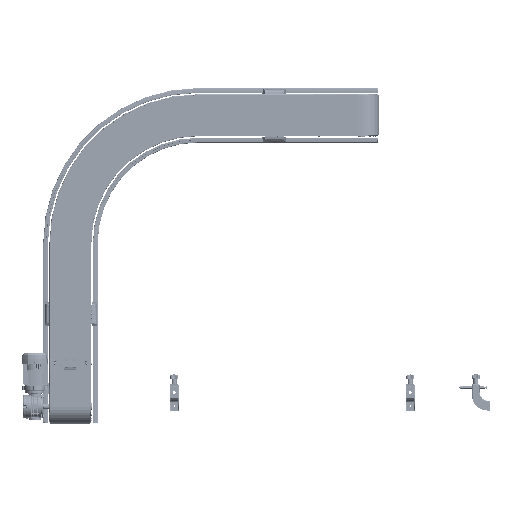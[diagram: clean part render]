
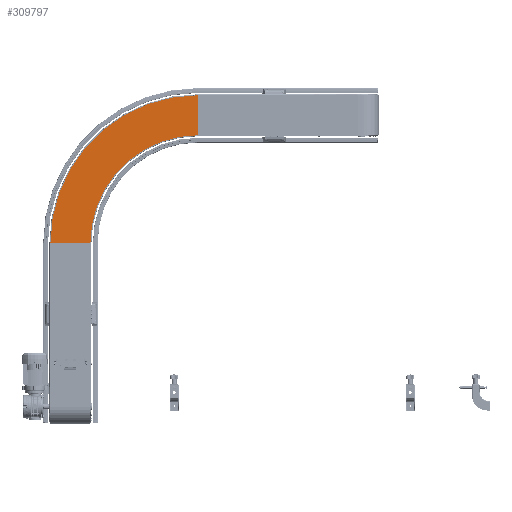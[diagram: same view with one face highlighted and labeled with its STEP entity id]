
A CAD part, top view. The second image highlights one B-rep face of the part: STEP entity #309797.
In plain terms, the highlighted planar face has unit normal (0, 0, 1) as drawn and (0, 1, 0) by its records, which use the part's own axes.
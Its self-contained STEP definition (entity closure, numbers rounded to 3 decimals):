
#5169 = EDGE_CURVE ( 'NONE', #130884, #138084, #359705, .T. ) ;
#35687 = AXIS2_PLACEMENT_3D ( 'NONE', #204573, #36529, #325039 ) ;
#36529 = DIRECTION ( 'NONE',  ( 0., 1., 0. ) ) ;
#45431 = DIRECTION ( 'NONE',  ( 0., 0., 1. ) ) ;
#74200 = FACE_OUTER_BOUND ( 'NONE', #411935, .T. ) ;
#76983 = CARTESIAN_POINT ( 'NONE',  ( -610., 4.83, 1255.25 ) ) ;
#80047 = ORIENTED_EDGE ( 'NONE', *, *, #255818, .F. ) ;
#80839 = CARTESIAN_POINT ( 'NONE',  ( -95.25, 4.83, 550. ) ) ;
#96522 = VERTEX_POINT ( 'NONE', #80839 ) ;
#111803 = DIRECTION ( 'NONE',  ( 0., 1., 0. ) ) ;
#111917 = ORIENTED_EDGE ( 'NONE', *, *, #176425, .T. ) ;
#130884 = VERTEX_POINT ( 'NONE', #451505 ) ;
#131850 = VECTOR ( 'NONE', #165773, 1000. ) ;
#138084 = VERTEX_POINT ( 'NONE', #310274 ) ;
#165773 = DIRECTION ( 'NONE',  ( 1., 0., 0. ) ) ;
#166190 = CARTESIAN_POINT ( 'NONE',  ( -610., 4.83, 1064.75 ) ) ;
#171487 = CARTESIAN_POINT ( 'NONE',  ( -610., 4.83, 1255.25 ) ) ;
#176425 = EDGE_CURVE ( 'NONE', #281174, #130884, #384274, .T. ) ;
#190296 = DIRECTION ( 'NONE',  ( 0., 0., 1. ) ) ;
#202979 = DIRECTION ( 'NONE',  ( 0., 1., 0. ) ) ;
#204573 = CARTESIAN_POINT ( 'NONE',  ( -610., 4.83, 550. ) ) ;
#235068 = CARTESIAN_POINT ( 'NONE',  ( -610., 4.83, 550. ) ) ;
#247781 = PLANE ( 'NONE',  #327374 ) ;
#255818 = EDGE_CURVE ( 'NONE', #281174, #96522, #518451, .T. ) ;
#281174 = VERTEX_POINT ( 'NONE', #166190 ) ;
#309797 = ADVANCED_FACE ( 'NONE', ( #74200 ), #247781, .T. ) ;
#310274 = CARTESIAN_POINT ( 'NONE',  ( 95.25, 4.83, 550. ) ) ;
#316160 = EDGE_CURVE ( 'NONE', #96522, #138084, #507292, .T. ) ;
#325039 = DIRECTION ( 'NONE',  ( 0., 0., 1. ) ) ;
#327374 = AXIS2_PLACEMENT_3D ( 'NONE', #76983, #202979, #373772 ) ;
#350927 = AXIS2_PLACEMENT_3D ( 'NONE', #235068, #111803, #190296 ) ;
#358558 = ORIENTED_EDGE ( 'NONE', *, *, #316160, .F. ) ;
#359705 = CIRCLE ( 'NONE', #350927, 705.25 ) ;
#373772 = DIRECTION ( 'NONE',  ( 0., 0., 1. ) ) ;
#384274 = LINE ( 'NONE', #171487, #516612 ) ;
#411935 = EDGE_LOOP ( 'NONE', ( #473775, #358558, #80047, #111917 ) ) ;
#426066 = CARTESIAN_POINT ( 'NONE',  ( 95.25, 4.83, 550. ) ) ;
#451505 = CARTESIAN_POINT ( 'NONE',  ( -610., 4.83, 1255.25 ) ) ;
#473775 = ORIENTED_EDGE ( 'NONE', *, *, #5169, .T. ) ;
#507292 = LINE ( 'NONE', #426066, #131850 ) ;
#516612 = VECTOR ( 'NONE', #45431, 1000. ) ;
#518451 = CIRCLE ( 'NONE', #35687, 514.75 ) ;
